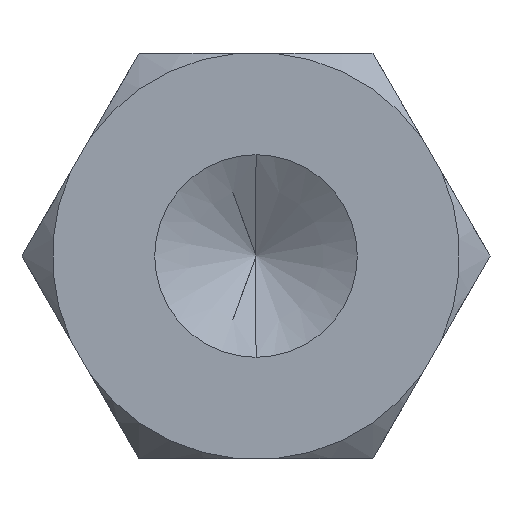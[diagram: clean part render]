
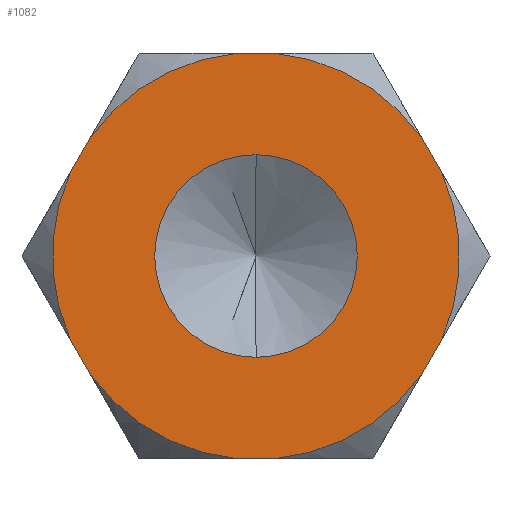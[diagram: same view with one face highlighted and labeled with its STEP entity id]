
A CAD part, front view. The second image highlights one B-rep face of the part: STEP entity #1082.
In plain terms, the highlighted planar face has unit normal (0, -1, 0).
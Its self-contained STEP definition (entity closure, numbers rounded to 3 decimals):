
#9 = DIRECTION ( 'NONE',  ( 0.5, 0., -0.866 ) ) ;
#10 = EDGE_CURVE ( 'NONE', #917, #134, #731, .T. ) ;
#11 = ORIENTED_EDGE ( 'NONE', *, *, #710, .F. ) ;
#39 = DIRECTION ( 'NONE',  ( 0., -1., 0. ) ) ;
#43 = LINE ( 'NONE', #391, #548 ) ;
#49 = CARTESIAN_POINT ( 'NONE',  ( 4.087, 0., -2.92 ) ) ;
#51 = CARTESIAN_POINT ( 'NONE',  ( 4.573, 0., 2.08 ) ) ;
#61 = CARTESIAN_POINT ( 'NONE',  ( 0., 0., 0. ) ) ;
#74 = CARTESIAN_POINT ( 'NONE',  ( -4.573, 0., 2.08 ) ) ;
#83 = ORIENTED_EDGE ( 'NONE', *, *, #373, .F. ) ;
#93 = AXIS2_PLACEMENT_3D ( 'NONE', #988, #561, #913 ) ;
#96 = EDGE_CURVE ( 'NONE', #928, #1055, #692, .T. ) ;
#101 = VERTEX_POINT ( 'NONE', #74 ) ;
#104 = CARTESIAN_POINT ( 'NONE',  ( 4.087, 0., 2.92 ) ) ;
#113 = AXIS2_PLACEMENT_3D ( 'NONE', #1064, #896, #277 ) ;
#134 = VERTEX_POINT ( 'NONE', #1028 ) ;
#147 = VECTOR ( 'NONE', #663, 1000. ) ;
#158 = CARTESIAN_POINT ( 'NONE',  ( 0., 0., -2.5 ) ) ;
#161 = EDGE_CURVE ( 'NONE', #1029, #1001, #513, .T. ) ;
#177 = LINE ( 'NONE', #524, #730 ) ;
#184 = CARTESIAN_POINT ( 'NONE',  ( 0.485, 0., -5. ) ) ;
#188 = CIRCLE ( 'NONE', #883, 5.024 ) ;
#196 = ORIENTED_EDGE ( 'NONE', *, *, #220, .T. ) ;
#220 = EDGE_CURVE ( 'NONE', #928, #306, #610, .T. ) ;
#231 = CARTESIAN_POINT ( 'NONE',  ( 5.774, 0., 0. ) ) ;
#233 = PLANE ( 'NONE',  #333 ) ;
#260 = CARTESIAN_POINT ( 'NONE',  ( -2.887, 0., -5. ) ) ;
#277 = DIRECTION ( 'NONE',  ( 0., 0., 1. ) ) ;
#287 = VERTEX_POINT ( 'NONE', #1061 ) ;
#291 = AXIS2_PLACEMENT_3D ( 'NONE', #925, #478, #552 ) ;
#305 = DIRECTION ( 'NONE',  ( 0., 0., -1. ) ) ;
#306 = VERTEX_POINT ( 'NONE', #726 ) ;
#315 = VECTOR ( 'NONE', #9, 1000. ) ;
#316 = DIRECTION ( 'NONE',  ( -0.5, 0., -0.866 ) ) ;
#333 = AXIS2_PLACEMENT_3D ( 'NONE', #407, #755, #575 ) ;
#334 = VECTOR ( 'NONE', #1044, 1000. ) ;
#337 = CARTESIAN_POINT ( 'NONE',  ( 2.887, 0., 5. ) ) ;
#373 = EDGE_CURVE ( 'NONE', #672, #728, #574, .T. ) ;
#391 = CARTESIAN_POINT ( 'NONE',  ( -2.887, 0., 5. ) ) ;
#407 = CARTESIAN_POINT ( 'NONE',  ( 0., 0., 0. ) ) ;
#415 = EDGE_CURVE ( 'NONE', #923, #1055, #188, .T. ) ;
#432 = EDGE_CURVE ( 'NONE', #134, #917, #970, .T. ) ;
#470 = ORIENTED_EDGE ( 'NONE', *, *, #666, .T. ) ;
#472 = DIRECTION ( 'NONE',  ( 0., 0., 1. ) ) ;
#478 = DIRECTION ( 'NONE',  ( 0., -1., 0. ) ) ;
#481 = VERTEX_POINT ( 'NONE', #861 ) ;
#485 = DIRECTION ( 'NONE',  ( 0., -1., 0. ) ) ;
#491 = CARTESIAN_POINT ( 'NONE',  ( 2.887, 0., -5. ) ) ;
#492 = CARTESIAN_POINT ( 'NONE',  ( -4.573, 0., -2.08 ) ) ;
#496 = AXIS2_PLACEMENT_3D ( 'NONE', #839, #743, #305 ) ;
#504 = CARTESIAN_POINT ( 'NONE',  ( 4.573, 0., -2.08 ) ) ;
#511 = ORIENTED_EDGE ( 'NONE', *, *, #96, .F. ) ;
#513 = LINE ( 'NONE', #260, #334 ) ;
#514 = CIRCLE ( 'NONE', #291, 5.024 ) ;
#524 = CARTESIAN_POINT ( 'NONE',  ( -5.774, 0., 0. ) ) ;
#534 = VECTOR ( 'NONE', #316, 1000. ) ;
#536 = AXIS2_PLACEMENT_3D ( 'NONE', #1059, #538, #640 ) ;
#538 = DIRECTION ( 'NONE',  ( 0., -1., 0. ) ) ;
#545 = DIRECTION ( 'NONE',  ( 0., -1., 0. ) ) ;
#548 = VECTOR ( 'NONE', #1076, 1000. ) ;
#552 = DIRECTION ( 'NONE',  ( 0., 0., -1. ) ) ;
#561 = DIRECTION ( 'NONE',  ( 0., -1., 0. ) ) ;
#573 = CARTESIAN_POINT ( 'NONE',  ( -0.485, 0., -5. ) ) ;
#574 = LINE ( 'NONE', #491, #147 ) ;
#575 = DIRECTION ( 'NONE',  ( 0., 0., 1. ) ) ;
#608 = ORIENTED_EDGE ( 'NONE', *, *, #432, .F. ) ;
#609 = AXIS2_PLACEMENT_3D ( 'NONE', #903, #545, #894 ) ;
#610 = CIRCLE ( 'NONE', #536, 5.024 ) ;
#615 = EDGE_LOOP ( 'NONE', ( #860, #941, #1040, #470, #1034, #828, #83, #682, #11, #652, #511, #196 ) ) ;
#640 = DIRECTION ( 'NONE',  ( 0., 0., 1. ) ) ;
#652 = ORIENTED_EDGE ( 'NONE', *, *, #415, .T. ) ;
#663 = DIRECTION ( 'NONE',  ( -1., 0., 0. ) ) ;
#664 = FACE_BOUND ( 'NONE', #947, .T. ) ;
#666 = EDGE_CURVE ( 'NONE', #101, #1001, #884, .T. ) ;
#672 = VERTEX_POINT ( 'NONE', #184 ) ;
#674 = DIRECTION ( 'NONE',  ( 0.5, 0., 0.866 ) ) ;
#682 = ORIENTED_EDGE ( 'NONE', *, *, #772, .T. ) ;
#692 = LINE ( 'NONE', #337, #315 ) ;
#699 = EDGE_CURVE ( 'NONE', #481, #287, #789, .T. ) ;
#710 = EDGE_CURVE ( 'NONE', #923, #784, #918, .T. ) ;
#726 = CARTESIAN_POINT ( 'NONE',  ( 0.485, 0., 5. ) ) ;
#728 = VERTEX_POINT ( 'NONE', #573 ) ;
#730 = VECTOR ( 'NONE', #674, 1000. ) ;
#731 = CIRCLE ( 'NONE', #496, 2.5 ) ;
#743 = DIRECTION ( 'NONE',  ( 0., -1., 0. ) ) ;
#755 = DIRECTION ( 'NONE',  ( 0., 1., 0. ) ) ;
#772 = EDGE_CURVE ( 'NONE', #672, #784, #514, .T. ) ;
#784 = VERTEX_POINT ( 'NONE', #49 ) ;
#787 = EDGE_CURVE ( 'NONE', #481, #306, #43, .T. ) ;
#789 = CIRCLE ( 'NONE', #864, 5.024 ) ;
#791 = CIRCLE ( 'NONE', #609, 5.024 ) ;
#828 = ORIENTED_EDGE ( 'NONE', *, *, #929, .T. ) ;
#839 = CARTESIAN_POINT ( 'NONE',  ( 0., 0., 0. ) ) ;
#860 = ORIENTED_EDGE ( 'NONE', *, *, #787, .F. ) ;
#861 = CARTESIAN_POINT ( 'NONE',  ( -0.485, 0., 5. ) ) ;
#864 = AXIS2_PLACEMENT_3D ( 'NONE', #61, #39, #1081 ) ;
#883 = AXIS2_PLACEMENT_3D ( 'NONE', #919, #485, #472 ) ;
#884 = CIRCLE ( 'NONE', #113, 5.024 ) ;
#894 = DIRECTION ( 'NONE',  ( 0., 0., 1. ) ) ;
#896 = DIRECTION ( 'NONE',  ( 0., -1., 0. ) ) ;
#903 = CARTESIAN_POINT ( 'NONE',  ( 0., 0., 0. ) ) ;
#910 = EDGE_CURVE ( 'NONE', #101, #287, #177, .T. ) ;
#913 = DIRECTION ( 'NONE',  ( 0., 0., -1. ) ) ;
#917 = VERTEX_POINT ( 'NONE', #158 ) ;
#918 = LINE ( 'NONE', #231, #534 ) ;
#919 = CARTESIAN_POINT ( 'NONE',  ( 0., 0., 0. ) ) ;
#923 = VERTEX_POINT ( 'NONE', #504 ) ;
#925 = CARTESIAN_POINT ( 'NONE',  ( 0., 0., 0. ) ) ;
#928 = VERTEX_POINT ( 'NONE', #104 ) ;
#929 = EDGE_CURVE ( 'NONE', #1029, #728, #791, .T. ) ;
#941 = ORIENTED_EDGE ( 'NONE', *, *, #699, .T. ) ;
#947 = EDGE_LOOP ( 'NONE', ( #1067, #608 ) ) ;
#970 = CIRCLE ( 'NONE', #93, 2.5 ) ;
#988 = CARTESIAN_POINT ( 'NONE',  ( 0., 0., 0. ) ) ;
#1001 = VERTEX_POINT ( 'NONE', #492 ) ;
#1005 = FACE_OUTER_BOUND ( 'NONE', #615, .T. ) ;
#1028 = CARTESIAN_POINT ( 'NONE',  ( 0., 0., 2.5 ) ) ;
#1029 = VERTEX_POINT ( 'NONE', #1084 ) ;
#1034 = ORIENTED_EDGE ( 'NONE', *, *, #161, .F. ) ;
#1040 = ORIENTED_EDGE ( 'NONE', *, *, #910, .F. ) ;
#1044 = DIRECTION ( 'NONE',  ( -0.5, 0., 0.866 ) ) ;
#1055 = VERTEX_POINT ( 'NONE', #51 ) ;
#1059 = CARTESIAN_POINT ( 'NONE',  ( 0., 0., 0. ) ) ;
#1061 = CARTESIAN_POINT ( 'NONE',  ( -4.087, 0., 2.92 ) ) ;
#1064 = CARTESIAN_POINT ( 'NONE',  ( 0., 0., 0. ) ) ;
#1067 = ORIENTED_EDGE ( 'NONE', *, *, #10, .F. ) ;
#1076 = DIRECTION ( 'NONE',  ( 1., 0., 0. ) ) ;
#1081 = DIRECTION ( 'NONE',  ( 0., 0., 1. ) ) ;
#1082 = ADVANCED_FACE ( 'NONE', ( #664, #1005 ), #233, .F. ) ;
#1084 = CARTESIAN_POINT ( 'NONE',  ( -4.087, 0., -2.92 ) ) ;
